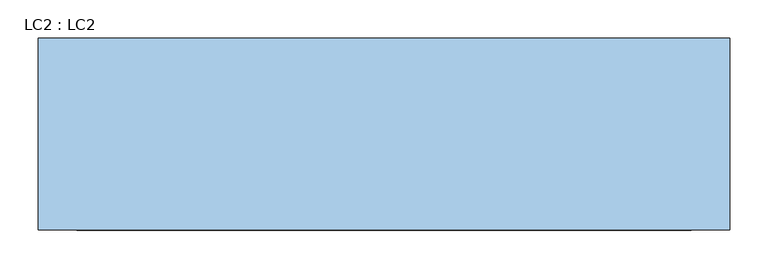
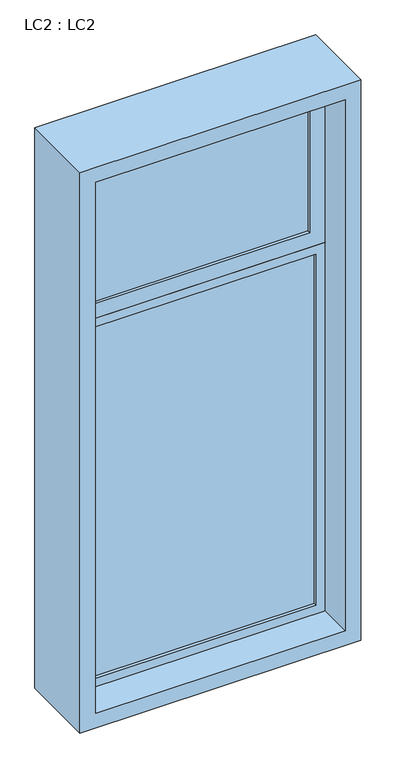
"""IFC4 building model written with IfcOpenShell, lengths in millimetres: window geometry, LC2 : LC2."""

import ifcopenshell
import ifcopenshell.guid

model = None  # the IFC model being written
_history = None  # IfcOwnerHistory: only IFC2X3 demands one
_inside = {}  # id of a spatial element -> (the spatial element, [elements in it])
_under = {}  # id of a project, library or spatial element -> (it, [spatial elements below it])
_declared = {}  # id of a project -> (the project, [libraries it declares])
_typed = {}  # id of a type object -> (the type object, [elements of that type])
_made_of = {}  # id of a material, layer set ... -> (it, [elements and type objects made of it])


def new_model(schema):
    """Start an empty IFC model of exactly this schema.

    Asked for "IFC4X3", IfcOpenShell would pick the latest addendum, in which some entities
    have other attributes; the version numbers below select the first issue.
    IFC2X3 requires an IfcOwnerHistory on every rooted entity: one is made here for all.
    """
    global model, _history
    if schema == "IFC4X3":
        model = ifcopenshell.file(schema_version=(4, 3, 0, 0))
    else:
        model = ifcopenshell.file(schema=schema)
    _inside.clear()
    _under.clear()
    _declared.clear()
    _typed.clear()
    _made_of.clear()
    _history = None
    if model.schema == "IFC2X3":
        org = make("IfcOrganization", Name="unknown")
        user = make(
            "IfcPersonAndOrganization",
            ThePerson=make("IfcPerson", FamilyName="unknown"),
            TheOrganization=org,
        )
        app = make(
            "IfcApplication",
            ApplicationDeveloper=org,
            Version="unknown",
            ApplicationFullName="unknown",
            ApplicationIdentifier="unknown",
        )
        _history = make(
            "IfcOwnerHistory",
            OwningUser=user,
            OwningApplication=app,
            ChangeAction="ADDED",
            CreationDate=0,
        )
    return model


def make(cls, **values):
    """One entity of the class cls with the attributes given. An attribute that is None is left unset."""
    return model.create_entity(
        cls, **{name: value for name, value in values.items() if value is not None}
    )


def rooted(cls, **values):
    """An entity with a GlobalId (a new one), such as an element, a storey or a relation."""
    return make(cls, GlobalId=ifcopenshell.guid.new(), OwnerHistory=_history, **values)


def si_unit(unit_type, name, prefix=None):
    """IfcSIUnit, for example si_unit("LENGTHUNIT", "METRE", prefix="MILLI")."""
    return make("IfcSIUnit", UnitType=unit_type, Prefix=prefix, Name=name)


def assignment(units):
    """IfcUnitAssignment: the units of a project."""
    return None if units is None else make("IfcUnitAssignment", Units=units)


def point(xyz):
    """IfcCartesianPoint."""
    return None if xyz is None else make("IfcCartesianPoint", Coordinates=xyz)


def direction(xyz):
    """IfcDirection."""
    return None if xyz is None else make("IfcDirection", DirectionRatios=xyz)


def frame(location, z_axis=None, x_axis=None):
    """IfcAxis2Placement3D, a coordinate frame: its origin and axes. An axis left out is left unset."""
    return make(
        "IfcAxis2Placement3D",
        Location=point(location),
        Axis=direction(z_axis),
        RefDirection=direction(x_axis),
    )


def origin():
    """The frame at (0, 0, 0) with its axes left unset."""
    return frame((0.0, 0.0, 0.0))


def place(relative_to, where):
    """IfcLocalPlacement: puts the frame where relative to a parent placement (None: the world)."""
    return make(
        "IfcLocalPlacement", PlacementRelTo=relative_to, RelativePlacement=where
    )


def context(
    kind, dimensions, precision=None, world=None, true_north=None, identifier=None
):
    """IfcGeometricRepresentationContext, for example the 3D "Model" context."""
    return make(
        "IfcGeometricRepresentationContext",
        ContextIdentifier=identifier,
        ContextType=kind,
        CoordinateSpaceDimension=dimensions,
        Precision=precision,
        WorldCoordinateSystem=world,
        TrueNorth=true_north,
    )


def project(units=None, contexts=None):
    """IfcProject with its units and contexts."""
    return rooted(
        "IfcProject",
        Name="project",
        RepresentationContexts=contexts,
        UnitsInContext=assignment(units),
    )


def spatial(cls, under=None, at=None, **own):
    """A site, building, storey or space (cls), placed at a placement, below another one or the project."""
    s = rooted(cls, ObjectPlacement=at, **own)
    if under is not None:
        _under.setdefault(under.id(), (under, []))[1].append(s)
    return s


def polyline(points):
    """IfcPolyline through the points."""
    return make("IfcPolyline", Points=[point(p) for p in points])


def outline(outer, holes=None, kind="AREA"):
    """IfcArbitraryClosedProfileDef: a profile drawn as a closed curve; with holes, ...WithVoids."""
    if holes is None:
        return make("IfcArbitraryClosedProfileDef", ProfileType=kind, OuterCurve=outer)
    return make(
        "IfcArbitraryProfileDefWithVoids",
        ProfileType=kind,
        OuterCurve=outer,
        InnerCurves=holes,
    )


def extrude(swept, where, along, depth):
    """IfcExtrudedAreaSolid: the profile swept, set in the frame where, extruded along a direction by depth."""
    return make(
        "IfcExtrudedAreaSolid",
        SweptArea=swept,
        Position=where,
        ExtrudedDirection=direction(along),
        Depth=depth,
    )


def shape(context_of_items, identifier, shape_type, items):
    """IfcShapeRepresentation: the items that make up one representation, for example the "Body"."""
    return make(
        "IfcShapeRepresentation",
        ContextOfItems=context_of_items,
        RepresentationIdentifier=identifier,
        RepresentationType=shape_type,
        Items=items,
    )


def source(mapping_origin, context_of_items, identifier, shape_type, items):
    """IfcRepresentationMap: a shape defined once, which mapped items show again and again."""
    return make(
        "IfcRepresentationMap",
        MappingOrigin=mapping_origin,
        MappedRepresentation=shape(context_of_items, identifier, shape_type, items),
    )


def transform(
    local_origin,
    x_axis=None,
    y_axis=None,
    z_axis=None,
    scale=None,
    scale2=None,
    scale3=None,
    uniform=True,
):
    """IfcCartesianTransformationOperator3D, or its non-uniform kind. x_axis, y_axis, z_axis: its Axis1, 2, 3."""
    if uniform:
        return make(
            "IfcCartesianTransformationOperator3D",
            Axis1=direction(x_axis),
            Axis2=direction(y_axis),
            LocalOrigin=point(local_origin),
            Scale=scale,
            Axis3=direction(z_axis),
        )
    return make(
        "IfcCartesianTransformationOperator3DnonUniform",
        Axis1=direction(x_axis),
        Axis2=direction(y_axis),
        LocalOrigin=point(local_origin),
        Scale=scale,
        Axis3=direction(z_axis),
        Scale2=scale2,
        Scale3=scale3,
    )


def mapped(mapping_source, mapping_target):
    """IfcMappedItem: shows the shape of a source again, moved by a transform."""
    return make(
        "IfcMappedItem", MappingSource=mapping_source, MappingTarget=mapping_target
    )


def made_of(thing, what):
    """Note that an element or type object is made of a material, layer set ...; save() writes the relation."""
    if what is not None:
        _made_of.setdefault(what.id(), (what, []))[1].append(thing)
    return thing


def element(
    cls,
    number,
    at=None,
    inside=None,
    cuts=None,
    type_object=None,
    material=None,
    context=None,
    identifier="Body",
    shape_type=None,
    held_by="IfcProductDefinitionShape",
    body=None,
    shapes=None,
    **own,
):
    """One element of the class cls, such as IfcWall. Its Tag is "e" and its number.

    at: its placement. inside: the storey or other place that contains it. cuts: it is an
    opening in that element (IfcRelVoidsElement). A single representation is given by context,
    identifier, shape_type and body (its items); several are given by shapes. held_by: the class
    of the entity that holds the representations. save() writes the other relations.
    """
    e = rooted(cls, Tag="e%d" % number, ObjectPlacement=at, **own)
    if body is not None:
        shapes = [shape(context, identifier, shape_type, body)]
    if shapes is not None:
        e.Representation = make(held_by, Representations=shapes)
    if inside is not None:
        _inside.setdefault(inside.id(), (inside, []))[1].append(e)
    if cuts is not None:
        rooted(
            "IfcRelVoidsElement", RelatingBuildingElement=cuts, RelatedOpeningElement=e
        )
    if type_object is not None:
        _typed.setdefault(type_object.id(), (type_object, []))[1].append(e)
    return made_of(e, material)


def aggregate(whole, parts):
    """IfcRelAggregates: a whole, such as a stair, and the parts it consists of."""
    return rooted("IfcRelAggregates", RelatingObject=whole, RelatedObjects=parts)


def save(model, path):
    """Write the relations noted so far, then the file.

    IfcRelAggregates (storeys below a building ...), IfcRelContainedInSpatialStructure (elements
    in a storey), IfcRelDefinesByType, IfcRelAssociatesMaterial and IfcRelDeclares: one each for
    every whole, place, type object, material and project.
    """
    for whole, parts in _under.values():
        aggregate(whole, parts)
    for where, things in _inside.values():
        rooted(
            "IfcRelContainedInSpatialStructure",
            RelatedElements=things,
            RelatingStructure=where,
        )
    for kind, things in _typed.values():
        rooted("IfcRelDefinesByType", RelatedObjects=things, RelatingType=kind)
    for what, things in _made_of.values():
        rooted("IfcRelAssociatesMaterial", RelatedObjects=things, RelatingMaterial=what)
    for by, libraries in _declared.values():
        rooted("IfcRelDeclares", RelatingContext=by, RelatedDefinitions=libraries)
    model.write(path)


def lc2_lc2_cf207e28(model_context):
    return source(origin(), model_context, "Body", "SweptSolid", [
        extrude(outline(polyline([(3400.0, 450.0), (3400.0, -450.0), (1500.0, -450.0), (1500.0, 450.0), (3400.0, 450.0)]), holes=[polyline([(3350.0, 400.0), (1550.0, 400.0), (1550.0, -400.0), (3350.0, -400.0), (3350.0, 400.0)])]), frame((0.0, -125.0, 0.0), z_axis=(0.0, 1.0, 0.0), x_axis=(0.0, 0.0, 1.0)), (0.0, 0.0, 1.0), 250.0),
        extrude(outline(polyline([(350.0, -5.2868922), (-350.0, -5.2868922), (-350.0, 4.7131078), (350.0, 4.7131078), (350.0, -5.2868922)])), frame((0.0, 0.0, 2850.0), z_axis=(0.0, 0.0, 1.0), x_axis=(1.0, 0.0, 0.0)), (0.0, 0.0, 1.0), 450.0),
        extrude(outline(polyline([(370.0, -5.2868922), (-370.0, -5.2868922), (-370.0, 4.7131078), (370.0, 4.7131078), (370.0, -5.2868922)])), frame((0.0, 0.0, 1580.0), z_axis=(0.0, 0.0, 1.0), x_axis=(1.0, 0.0, 0.0)), (0.0, 0.0, 1.0), 1190.0),
        extrude(outline(polyline([(3350.0, 400.0), (3350.0, -400.0), (2800.0, -400.0), (2800.0, 400.0), (3350.0, 400.0)]), holes=[polyline([(3300.0, 350.0), (2850.0, 350.0), (2850.0, -350.0), (3300.0, -350.0), (3300.0, 350.0)])]), frame((0.0, -15.0, 0.0), z_axis=(0.0, 1.0, 0.0), x_axis=(0.0, 0.0, 1.0)), (0.0, 0.0, 1.0), 30.0),
        extrude(outline(polyline([(2800.0, 400.0), (2800.0, -400.0), (1550.0, -400.0), (1550.0, 400.0), (2800.0, 400.0)]), holes=[polyline([(2770.0, 370.0), (1580.0, 370.0), (1580.0, -370.0), (2770.0, -370.0), (2770.0, 370.0)])]), frame((0.0, -15.0, 0.0), z_axis=(0.0, 1.0, 0.0), x_axis=(0.0, 0.0, 1.0)), (0.0, 0.0, 1.0), 30.0),
    ])


if __name__ == "__main__":
    model = new_model("IFC4")
    model_context = context("Model", 3, world=origin())
    ifc_project = project(units=[si_unit("LENGTHUNIT", "METRE", prefix="MILLI")], contexts=[model_context])
    site = spatial("IfcSite", under=ifc_project)
    building = spatial("IfcBuilding", under=site)
    placement = place(None, origin())
    lc2_lc2_shape = lc2_lc2_cf207e28(model_context)
    element("IfcWindow", 1, ObjectType="LC2 : LC2", at=placement, inside=building, context=model_context, shape_type="MappedRepresentation", body=[
        mapped(lc2_lc2_shape, transform((0.0, 0.0, 0.0), x_axis=(1.0, 0.0, 0.0), y_axis=(0.0, 1.0, 0.0), z_axis=(0.0, 0.0, 1.0))),
    ])
    save(model, "model.ifc")
